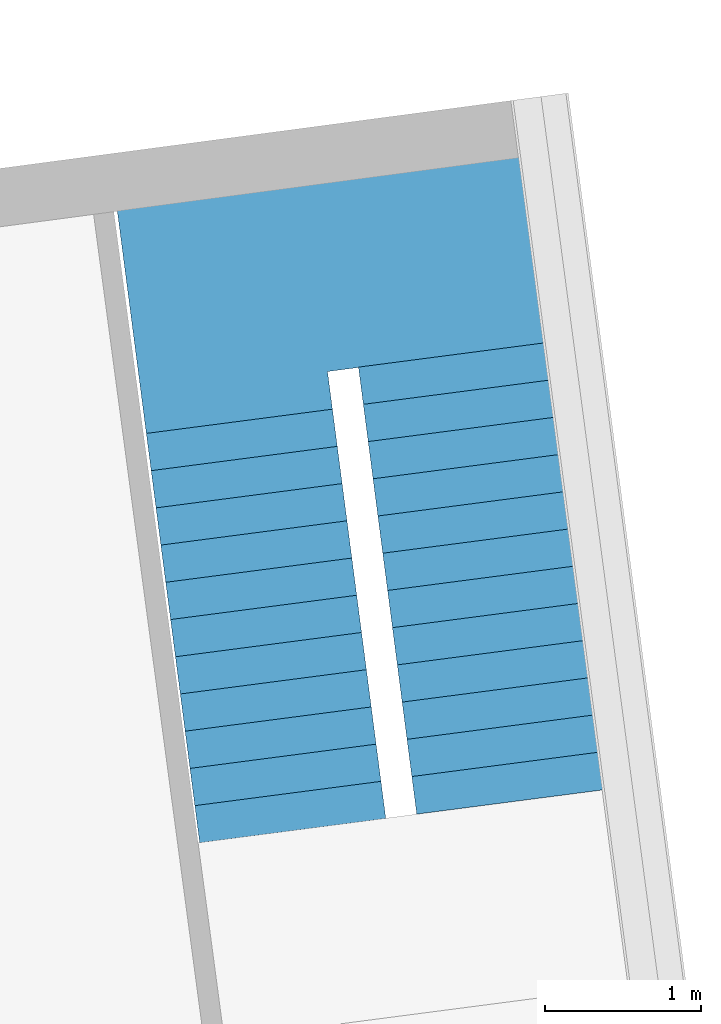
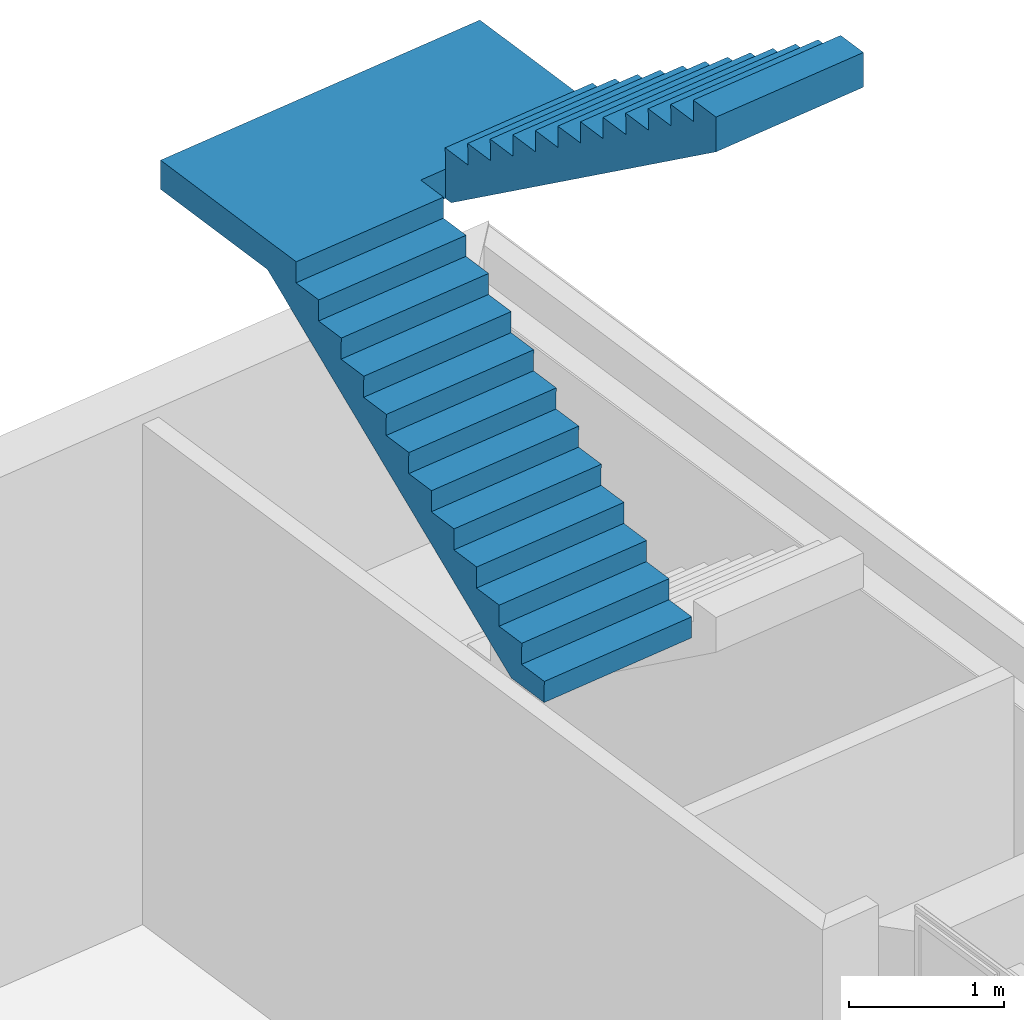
# One storey, part 14 of 17: 1 stair.
"""IFC2X3 building model written with IfcOpenShell, lengths in metres."""

from ifc_helpers import new_model, entity, si_unit, converted_unit, money_unit, direction, frame, origin_with_axes, place, context, subcontext, project, spatial, faceted_brep, material, element, save


model = new_model("IFC2X3")

# Units and contexts
model_context = context("Model", 3, precision=1e-05, world=origin_with_axes(), true_north=direction((0.0, 1.0)))
body_context = subcontext(model_context, "Body", "Model", "MODEL_VIEW")
ifc_project = project(units=[si_unit("LENGTHUNIT", "METRE"), si_unit("AREAUNIT", "SQUARE_METRE"), si_unit("VOLUMEUNIT", "CUBIC_METRE"), converted_unit("PLANEANGLEUNIT", "DEGREE", entity("IfcPlaneAngleMeasure", 0.0174532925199), si_unit("PLANEANGLEUNIT", "RADIAN"), dimensions=[0, 0, 0, 0, 0, 0, 0]), si_unit("SOLIDANGLEUNIT", "STERADIAN"), money_unit("EUR"), converted_unit("TIMEUNIT", "Year", entity("IfcTimeMeasure", 31556926.0), si_unit("TIMEUNIT", "SECOND"), dimensions=[0, 0, 0, 0, 0, 0, 0]), si_unit("MASSUNIT", "GRAM"), si_unit("THERMODYNAMICTEMPERATUREUNIT", "DEGREE_CELSIUS"), si_unit("LUMINOUSINTENSITYUNIT", "LUMEN")], contexts=[model_context])

# Site, building, storey
site_placement = place(None, origin_with_axes())
site = spatial("IfcSite", under=ifc_project, at=site_placement, Name="Undefined", CompositionType="ELEMENT")
building_placement = place(site_placement, origin_with_axes())
building = spatial("IfcBuilding", under=site, at=building_placement, Name="Undefined", CompositionType="ELEMENT")
storey_placement = place(building_placement, frame((0.0, 0.0, 9.425), z_axis=(0.0, 0.0, 1.0), x_axis=(1.0, 0.0, 0.0)))
storey = spatial("IfcBuildingStorey", under=building, at=storey_placement, Name="Mezzannine", CompositionType="ELEMENT", Elevation=9.425)

# Stair
ifc_material = material(Name="Concrete Block")
stair_placement = place(storey_placement, frame((64.973856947, 23.1091843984, 3.95), z_axis=(0.0, 0.0, 1.0), x_axis=(0.129312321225, -0.991603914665, 0.0)))
element("IfcStair", 1, at=stair_placement, inside=storey, material=ifc_material, Name="Stair_02", ObjectType="STAIR", ShapeType="NOTDEFINED", context=body_context, shape_type="Brep", body=[
    faceted_brep([(-0.349165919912, 0.0, 0.0), (-2.94295473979, 0.0, 1.7825), (-2.94295473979, 1.2, 1.7825), (-0.349165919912, 1.2, 0.0), (-0.02, 0.0, 0.0), (-0.02, 0.0, 0.137708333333), (-0.26, 0.0, 0.137708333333), (-0.26, 0.0, 0.305416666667), (-0.5, 0.0, 0.305416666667), (-0.5, 0.0, 0.473125), (-0.74, 0.0, 0.473125), (-0.74, 0.0, 0.640833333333), (-0.98, 0.0, 0.640833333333), (-0.98, 0.0, 0.808541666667), (-1.22, 0.0, 0.808541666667), (-1.22, 0.0, 0.97625), (-1.46, 0.0, 0.97625), (-1.46, 0.0, 1.14395833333), (-1.7, 0.0, 1.14395833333), (-1.7, 0.0, 1.31166666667), (-1.94, 0.0, 1.31166666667), (-1.94, 0.0, 1.479375), (-2.18, 0.0, 1.479375), (-2.18, 0.0, 1.64708333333), (-2.42, 0.0, 1.64708333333), (-2.42, 0.0, 1.81479166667), (-2.66, 0.0, 1.81479166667), (-2.66, 0.0, 1.9825), (-2.9, 0.0, 1.9825), (-4.08, 0.0, 1.9825), (-4.08, 0.0, 1.7825), (-4.08, 1.2, 1.7825), (-4.08, 1.2, 1.9825), (-2.9, 1.2, 1.9825), (-2.66, 1.2, 1.9825), (-2.66, 1.2, 1.81479166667), (-2.42, 1.2, 1.81479166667), (-2.42, 1.2, 1.64708333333), (-2.18, 1.2, 1.64708333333), (-2.18, 1.2, 1.479375), (-1.94, 1.2, 1.479375), (-1.94, 1.2, 1.31166666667), (-1.7, 1.2, 1.31166666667), (-1.7, 1.2, 1.14395833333), (-1.46, 1.2, 1.14395833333), (-1.46, 1.2, 0.97625), (-1.22, 1.2, 0.97625), (-1.22, 1.2, 0.808541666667), (-0.98, 1.2, 0.808541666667), (-0.98, 1.2, 0.640833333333), (-0.74, 1.2, 0.640833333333), (-0.74, 1.2, 0.473125), (-0.5, 1.2, 0.473125), (-0.5, 1.2, 0.305416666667), (-0.26, 1.2, 0.305416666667), (-0.26, 1.2, 0.137708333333), (-0.02, 1.2, 0.137708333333), (-0.02, 1.2, 0.0)], [[[0, 1, 2, 3]], [[0, 4, 5, 6, 7, 8, 9, 10, 11, 12, 13, 14, 15, 16, 17, 18, 19, 20, 21, 22, 23, 24, 25, 26, 27, 28, 29, 30, 1]], [[1, 30, 31, 2]], [[3, 2, 31, 32, 33, 34, 35, 36, 37, 38, 39, 40, 41, 42, 43, 44, 45, 46, 47, 48, 49, 50, 51, 52, 53, 54, 55, 56, 57]], [[4, 0, 3, 57]], [[5, 4, 57, 56]], [[6, 5, 56, 55]], [[7, 6, 55, 54]], [[8, 7, 54, 53]], [[9, 8, 53, 52]], [[10, 9, 52, 51]], [[11, 10, 51, 50]], [[12, 11, 50, 49]], [[13, 12, 49, 48]], [[14, 13, 48, 47]], [[15, 14, 47, 46]], [[16, 15, 46, 45]], [[17, 16, 45, 44]], [[18, 17, 44, 43]], [[19, 18, 43, 42]], [[20, 19, 42, 41]], [[21, 20, 41, 40]], [[22, 21, 40, 39]], [[23, 22, 39, 38]], [[24, 23, 38, 37]], [[25, 24, 37, 36]], [[26, 25, 36, 35]], [[27, 26, 35, 34]], [[28, 27, 34, 33]], [[29, 28, 33, 32]], [[30, 29, 32, 31]]]),
    faceted_brep([(-2.88, 1.2, 1.9825), (-2.88, 1.2, 1.7825), (-2.88, 1.4, 1.7825), (-2.88, 1.4, 1.9825), (-4.08, 1.2, 1.9825), (-4.08, 1.2, 1.7825), (-2.94295473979, 1.2, 1.7825), (-2.94295473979, 1.4, 1.7825), (-4.08, 1.4, 1.7825), (-4.08, 1.4, 1.9825)], [[[0, 1, 2, 3]], [[0, 4, 5, 6, 1]], [[1, 6, 7, 2]], [[3, 2, 7, 8, 9]], [[4, 0, 3, 9]], [[5, 4, 9, 8]], [[6, 5, 8, 7]]]),
    faceted_brep([(-2.88, 1.4, 1.9825), (-2.88, 1.4, 1.7825), (-2.88, 2.6, 1.7825), (-2.88, 2.6, 1.9825), (-4.08, 1.4, 1.9825), (-4.08, 1.4, 1.7825), (-4.08, 2.6, 1.7825), (-4.08, 2.6, 1.9825)], [[[0, 1, 2, 3]], [[0, 4, 5, 1]], [[1, 5, 6, 2]], [[3, 2, 6, 7]], [[4, 0, 3, 7]], [[5, 4, 7, 6]]]),
    faceted_brep([(-2.88, 1.4, 1.7825), (-2.88, 2.6, 1.7825), (-2.81704526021, 2.6, 1.7825), (-2.81704526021, 1.4, 1.7825), (-2.88, 1.4, 1.9825), (-2.88, 2.6, 1.9825), (-2.86, 2.6, 1.9825), (-2.86, 2.6, 2.15020833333), (-2.62, 2.6, 2.15020833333), (-2.62, 2.6, 2.31791666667), (-2.38, 2.6, 2.31791666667), (-2.38, 2.6, 2.485625), (-2.14, 2.6, 2.485625), (-2.14, 2.6, 2.65333333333), (-1.9, 2.6, 2.65333333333), (-1.9, 2.6, 2.82104166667), (-1.66, 2.6, 2.82104166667), (-1.66, 2.6, 2.98875), (-1.42, 2.6, 2.98875), (-1.42, 2.6, 3.15645833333), (-1.18, 2.6, 3.15645833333), (-1.18, 2.6, 3.32416666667), (-0.94, 2.6, 3.32416666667), (-0.94, 2.6, 3.491875), (-0.7, 2.6, 3.491875), (-0.7, 2.6, 3.65958333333), (-0.46, 2.6, 3.65958333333), (-0.46, 2.6, 3.82729166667), (-0.22, 2.6, 3.82729166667), (-0.22, 2.6, 3.995), (0.0, 2.6, 3.995), (0.0, 2.6, 3.75100818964), (0.0, 1.4, 3.75100818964), (0.0, 1.4, 3.995), (-0.22, 1.4, 3.995), (-0.22, 1.4, 3.82729166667), (-0.46, 1.4, 3.82729166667), (-0.46, 1.4, 3.65958333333), (-0.7, 1.4, 3.65958333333), (-0.7, 1.4, 3.491875), (-0.94, 1.4, 3.491875), (-0.94, 1.4, 3.32416666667), (-1.18, 1.4, 3.32416666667), (-1.18, 1.4, 3.15645833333), (-1.42, 1.4, 3.15645833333), (-1.42, 1.4, 2.98875), (-1.66, 1.4, 2.98875), (-1.66, 1.4, 2.82104166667), (-1.9, 1.4, 2.82104166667), (-1.9, 1.4, 2.65333333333), (-2.14, 1.4, 2.65333333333), (-2.14, 1.4, 2.485625), (-2.38, 1.4, 2.485625), (-2.38, 1.4, 2.31791666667), (-2.62, 1.4, 2.31791666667), (-2.62, 1.4, 2.15020833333), (-2.86, 1.4, 2.15020833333), (-2.86, 1.4, 1.9825)], [[[0, 1, 2, 3]], [[4, 5, 1, 0]], [[1, 5, 6, 7, 8, 9, 10, 11, 12, 13, 14, 15, 16, 17, 18, 19, 20, 21, 22, 23, 24, 25, 26, 27, 28, 29, 30, 31, 2]], [[3, 2, 31, 32]], [[0, 3, 32, 33, 34, 35, 36, 37, 38, 39, 40, 41, 42, 43, 44, 45, 46, 47, 48, 49, 50, 51, 52, 53, 54, 55, 56, 57, 4]], [[57, 6, 5, 4]], [[56, 7, 6, 57]], [[55, 8, 7, 56]], [[54, 9, 8, 55]], [[53, 10, 9, 54]], [[52, 11, 10, 53]], [[51, 12, 11, 52]], [[50, 13, 12, 51]], [[49, 14, 13, 50]], [[48, 15, 14, 49]], [[47, 16, 15, 48]], [[46, 17, 16, 47]], [[45, 18, 17, 46]], [[44, 19, 18, 45]], [[43, 20, 19, 44]], [[42, 21, 20, 43]], [[41, 22, 21, 42]], [[40, 23, 22, 41]], [[39, 24, 23, 40]], [[38, 25, 24, 39]], [[37, 26, 25, 38]], [[36, 27, 26, 37]], [[35, 28, 27, 36]], [[34, 29, 28, 35]], [[33, 30, 29, 34]], [[32, 31, 30, 33]]]),
    faceted_brep([(0.0, 0.0, 0.0), (-0.02, 0.0, 0.0), (-0.02, 1.2, 0.0), (0.0, 1.2, 0.0), (0.0, 0.0, 0.137708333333), (-0.02, 0.0, 0.137708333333), (-0.02, 1.2, 0.137708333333), (0.0, 1.2, 0.137708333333)], [[[0, 1, 2, 3]], [[0, 4, 5, 1]], [[1, 5, 6, 2]], [[3, 2, 6, 7]], [[4, 0, 3, 7]], [[5, 4, 7, 6]]]),
    faceted_brep([(-0.24, 0.0, 0.167708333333), (-0.26, 0.0, 0.167708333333), (-0.26, 1.2, 0.167708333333), (-0.24, 1.2, 0.167708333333), (-0.24, 0.0, 0.305416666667), (-0.26, 0.0, 0.305416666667), (-0.26, 1.2, 0.305416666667), (-0.24, 1.2, 0.305416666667)], [[[0, 1, 2, 3]], [[0, 4, 5, 1]], [[1, 5, 6, 2]], [[3, 2, 6, 7]], [[4, 0, 3, 7]], [[5, 4, 7, 6]]]),
    faceted_brep([(-0.48, 0.0, 0.335416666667), (-0.5, 0.0, 0.335416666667), (-0.5, 1.2, 0.335416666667), (-0.48, 1.2, 0.335416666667), (-0.48, 0.0, 0.473125), (-0.5, 0.0, 0.473125), (-0.5, 1.2, 0.473125), (-0.48, 1.2, 0.473125)], [[[0, 1, 2, 3]], [[0, 4, 5, 1]], [[1, 5, 6, 2]], [[3, 2, 6, 7]], [[4, 0, 3, 7]], [[5, 4, 7, 6]]]),
    faceted_brep([(-0.72, 0.0, 0.503125), (-0.74, 0.0, 0.503125), (-0.74, 1.2, 0.503125), (-0.72, 1.2, 0.503125), (-0.72, 0.0, 0.640833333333), (-0.74, 0.0, 0.640833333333), (-0.74, 1.2, 0.640833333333), (-0.72, 1.2, 0.640833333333)], [[[0, 1, 2, 3]], [[0, 4, 5, 1]], [[1, 5, 6, 2]], [[3, 2, 6, 7]], [[4, 0, 3, 7]], [[5, 4, 7, 6]]]),
    faceted_brep([(-0.96, 0.0, 0.670833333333), (-0.98, 0.0, 0.670833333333), (-0.98, 1.2, 0.670833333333), (-0.96, 1.2, 0.670833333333), (-0.96, 0.0, 0.808541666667), (-0.98, 0.0, 0.808541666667), (-0.98, 1.2, 0.808541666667), (-0.96, 1.2, 0.808541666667)], [[[0, 1, 2, 3]], [[0, 4, 5, 1]], [[1, 5, 6, 2]], [[3, 2, 6, 7]], [[4, 0, 3, 7]], [[5, 4, 7, 6]]]),
    faceted_brep([(-1.2, 0.0, 0.838541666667), (-1.22, 0.0, 0.838541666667), (-1.22, 1.2, 0.838541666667), (-1.2, 1.2, 0.838541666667), (-1.2, 0.0, 0.97625), (-1.22, 0.0, 0.97625), (-1.22, 1.2, 0.97625), (-1.2, 1.2, 0.97625)], [[[0, 1, 2, 3]], [[0, 4, 5, 1]], [[1, 5, 6, 2]], [[3, 2, 6, 7]], [[4, 0, 3, 7]], [[5, 4, 7, 6]]]),
    faceted_brep([(-1.44, 0.0, 1.00625), (-1.46, 0.0, 1.00625), (-1.46, 1.2, 1.00625), (-1.44, 1.2, 1.00625), (-1.44, 0.0, 1.14395833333), (-1.46, 0.0, 1.14395833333), (-1.46, 1.2, 1.14395833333), (-1.44, 1.2, 1.14395833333)], [[[0, 1, 2, 3]], [[0, 4, 5, 1]], [[1, 5, 6, 2]], [[3, 2, 6, 7]], [[4, 0, 3, 7]], [[5, 4, 7, 6]]]),
    faceted_brep([(-1.68, 0.0, 1.17395833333), (-1.7, 0.0, 1.17395833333), (-1.7, 1.2, 1.17395833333), (-1.68, 1.2, 1.17395833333), (-1.68, 0.0, 1.31166666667), (-1.7, 0.0, 1.31166666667), (-1.7, 1.2, 1.31166666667), (-1.68, 1.2, 1.31166666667)], [[[0, 1, 2, 3]], [[0, 4, 5, 1]], [[1, 5, 6, 2]], [[3, 2, 6, 7]], [[4, 0, 3, 7]], [[5, 4, 7, 6]]]),
    faceted_brep([(-1.92, 0.0, 1.34166666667), (-1.94, 0.0, 1.34166666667), (-1.94, 1.2, 1.34166666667), (-1.92, 1.2, 1.34166666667), (-1.92, 0.0, 1.479375), (-1.94, 0.0, 1.479375), (-1.94, 1.2, 1.479375), (-1.92, 1.2, 1.479375)], [[[0, 1, 2, 3]], [[0, 4, 5, 1]], [[1, 5, 6, 2]], [[3, 2, 6, 7]], [[4, 0, 3, 7]], [[5, 4, 7, 6]]]),
    faceted_brep([(-2.16, 0.0, 1.509375), (-2.18, 0.0, 1.509375), (-2.18, 1.2, 1.509375), (-2.16, 1.2, 1.509375), (-2.16, 0.0, 1.64708333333), (-2.18, 0.0, 1.64708333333), (-2.18, 1.2, 1.64708333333), (-2.16, 1.2, 1.64708333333)], [[[0, 1, 2, 3]], [[0, 4, 5, 1]], [[1, 5, 6, 2]], [[3, 2, 6, 7]], [[4, 0, 3, 7]], [[5, 4, 7, 6]]]),
    faceted_brep([(-2.4, 0.0, 1.67708333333), (-2.42, 0.0, 1.67708333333), (-2.42, 1.2, 1.67708333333), (-2.4, 1.2, 1.67708333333), (-2.4, 0.0, 1.81479166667), (-2.42, 0.0, 1.81479166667), (-2.42, 1.2, 1.81479166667), (-2.4, 1.2, 1.81479166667)], [[[0, 1, 2, 3]], [[0, 4, 5, 1]], [[1, 5, 6, 2]], [[3, 2, 6, 7]], [[4, 0, 3, 7]], [[5, 4, 7, 6]]]),
    faceted_brep([(-2.64, 0.0, 1.84479166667), (-2.66, 0.0, 1.84479166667), (-2.66, 1.2, 1.84479166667), (-2.64, 1.2, 1.84479166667), (-2.64, 0.0, 1.9825), (-2.66, 0.0, 1.9825), (-2.66, 1.2, 1.9825), (-2.64, 1.2, 1.9825)], [[[0, 1, 2, 3]], [[0, 4, 5, 1]], [[1, 5, 6, 2]], [[3, 2, 6, 7]], [[4, 0, 3, 7]], [[5, 4, 7, 6]]]),
    faceted_brep([(-2.88, 1.4, 2.0125), (-2.88, 2.6, 2.0125), (-2.86, 2.6, 2.0125), (-2.86, 1.4, 2.0125), (-2.88, 1.4, 2.15020833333), (-2.88, 2.6, 2.15020833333), (-2.86, 2.6, 2.15020833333), (-2.86, 1.4, 2.15020833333)], [[[0, 1, 2, 3]], [[4, 5, 1, 0]], [[1, 5, 6, 2]], [[3, 2, 6, 7]], [[0, 3, 7, 4]], [[7, 6, 5, 4]]]),
    faceted_brep([(-2.64, 1.4, 2.18020833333), (-2.64, 2.6, 2.18020833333), (-2.62, 2.6, 2.18020833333), (-2.62, 1.4, 2.18020833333), (-2.64, 1.4, 2.31791666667), (-2.64, 2.6, 2.31791666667), (-2.62, 2.6, 2.31791666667), (-2.62, 1.4, 2.31791666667)], [[[0, 1, 2, 3]], [[4, 5, 1, 0]], [[1, 5, 6, 2]], [[3, 2, 6, 7]], [[0, 3, 7, 4]], [[7, 6, 5, 4]]]),
    faceted_brep([(-2.4, 1.4, 2.34791666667), (-2.4, 2.6, 2.34791666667), (-2.38, 2.6, 2.34791666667), (-2.38, 1.4, 2.34791666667), (-2.4, 1.4, 2.485625), (-2.4, 2.6, 2.485625), (-2.38, 2.6, 2.485625), (-2.38, 1.4, 2.485625)], [[[0, 1, 2, 3]], [[4, 5, 1, 0]], [[1, 5, 6, 2]], [[3, 2, 6, 7]], [[0, 3, 7, 4]], [[7, 6, 5, 4]]]),
    faceted_brep([(-2.16, 1.4, 2.515625), (-2.16, 2.6, 2.515625), (-2.14, 2.6, 2.515625), (-2.14, 1.4, 2.515625), (-2.16, 1.4, 2.65333333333), (-2.16, 2.6, 2.65333333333), (-2.14, 2.6, 2.65333333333), (-2.14, 1.4, 2.65333333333)], [[[0, 1, 2, 3]], [[4, 5, 1, 0]], [[1, 5, 6, 2]], [[3, 2, 6, 7]], [[0, 3, 7, 4]], [[7, 6, 5, 4]]]),
    faceted_brep([(-1.92, 1.4, 2.68333333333), (-1.92, 2.6, 2.68333333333), (-1.9, 2.6, 2.68333333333), (-1.9, 1.4, 2.68333333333), (-1.92, 1.4, 2.82104166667), (-1.92, 2.6, 2.82104166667), (-1.9, 2.6, 2.82104166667), (-1.9, 1.4, 2.82104166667)], [[[0, 1, 2, 3]], [[4, 5, 1, 0]], [[1, 5, 6, 2]], [[3, 2, 6, 7]], [[0, 3, 7, 4]], [[7, 6, 5, 4]]]),
    faceted_brep([(-1.68, 1.4, 2.85104166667), (-1.68, 2.6, 2.85104166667), (-1.66, 2.6, 2.85104166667), (-1.66, 1.4, 2.85104166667), (-1.68, 1.4, 2.98875), (-1.68, 2.6, 2.98875), (-1.66, 2.6, 2.98875), (-1.66, 1.4, 2.98875)], [[[0, 1, 2, 3]], [[4, 5, 1, 0]], [[1, 5, 6, 2]], [[3, 2, 6, 7]], [[0, 3, 7, 4]], [[7, 6, 5, 4]]]),
    faceted_brep([(-1.44, 1.4, 3.01875), (-1.44, 2.6, 3.01875), (-1.42, 2.6, 3.01875), (-1.42, 1.4, 3.01875), (-1.44, 1.4, 3.15645833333), (-1.44, 2.6, 3.15645833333), (-1.42, 2.6, 3.15645833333), (-1.42, 1.4, 3.15645833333)], [[[0, 1, 2, 3]], [[4, 5, 1, 0]], [[1, 5, 6, 2]], [[3, 2, 6, 7]], [[0, 3, 7, 4]], [[7, 6, 5, 4]]]),
    faceted_brep([(-1.2, 1.4, 3.18645833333), (-1.2, 2.6, 3.18645833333), (-1.18, 2.6, 3.18645833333), (-1.18, 1.4, 3.18645833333), (-1.2, 1.4, 3.32416666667), (-1.2, 2.6, 3.32416666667), (-1.18, 2.6, 3.32416666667), (-1.18, 1.4, 3.32416666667)], [[[0, 1, 2, 3]], [[4, 5, 1, 0]], [[1, 5, 6, 2]], [[3, 2, 6, 7]], [[0, 3, 7, 4]], [[7, 6, 5, 4]]]),
    faceted_brep([(-0.96, 1.4, 3.35416666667), (-0.96, 2.6, 3.35416666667), (-0.94, 2.6, 3.35416666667), (-0.94, 1.4, 3.35416666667), (-0.96, 1.4, 3.491875), (-0.96, 2.6, 3.491875), (-0.94, 2.6, 3.491875), (-0.94, 1.4, 3.491875)], [[[0, 1, 2, 3]], [[4, 5, 1, 0]], [[1, 5, 6, 2]], [[3, 2, 6, 7]], [[0, 3, 7, 4]], [[7, 6, 5, 4]]]),
    faceted_brep([(-0.72, 1.4, 3.521875), (-0.72, 2.6, 3.521875), (-0.7, 2.6, 3.521875), (-0.7, 1.4, 3.521875), (-0.72, 1.4, 3.65958333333), (-0.72, 2.6, 3.65958333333), (-0.7, 2.6, 3.65958333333), (-0.7, 1.4, 3.65958333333)], [[[0, 1, 2, 3]], [[4, 5, 1, 0]], [[1, 5, 6, 2]], [[3, 2, 6, 7]], [[0, 3, 7, 4]], [[7, 6, 5, 4]]]),
    faceted_brep([(-0.48, 1.4, 3.68958333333), (-0.48, 2.6, 3.68958333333), (-0.46, 2.6, 3.68958333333), (-0.46, 1.4, 3.68958333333), (-0.48, 1.4, 3.82729166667), (-0.48, 2.6, 3.82729166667), (-0.46, 2.6, 3.82729166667), (-0.46, 1.4, 3.82729166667)], [[[0, 1, 2, 3]], [[4, 5, 1, 0]], [[1, 5, 6, 2]], [[3, 2, 6, 7]], [[0, 3, 7, 4]], [[7, 6, 5, 4]]]),
    faceted_brep([(-0.24, 1.4, 3.85729166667), (-0.24, 2.6, 3.85729166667), (-0.22, 2.6, 3.85729166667), (-0.22, 1.4, 3.85729166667), (-0.24, 1.4, 3.995), (-0.24, 2.6, 3.995), (-0.22, 2.6, 3.995), (-0.22, 1.4, 3.995)], [[[0, 1, 2, 3]], [[4, 5, 1, 0]], [[1, 5, 6, 2]], [[3, 2, 6, 7]], [[0, 3, 7, 4]], [[7, 6, 5, 4]]]),
    faceted_brep([(0.0025, 0.0, 0.137708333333), (-0.26, 0.0, 0.137708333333), (-0.26, 1.2, 0.137708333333), (0.0025, 1.2, 0.137708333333), (0.0025, 0.0, 0.167708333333), (-0.26, 0.0, 0.167708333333), (-0.26, 1.2, 0.167708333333), (0.0025, 1.2, 0.167708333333)], [[[0, 1, 2, 3]], [[0, 4, 5, 1]], [[1, 5, 6, 2]], [[3, 2, 6, 7]], [[4, 0, 3, 7]], [[5, 4, 7, 6]]]),
    faceted_brep([(-0.2375, 0.0, 0.305416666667), (-0.5, 0.0, 0.305416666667), (-0.5, 1.2, 0.305416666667), (-0.2375, 1.2, 0.305416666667), (-0.2375, 0.0, 0.335416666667), (-0.5, 0.0, 0.335416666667), (-0.5, 1.2, 0.335416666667), (-0.2375, 1.2, 0.335416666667)], [[[0, 1, 2, 3]], [[0, 4, 5, 1]], [[1, 5, 6, 2]], [[3, 2, 6, 7]], [[4, 0, 3, 7]], [[5, 4, 7, 6]]]),
    faceted_brep([(-0.4775, 0.0, 0.473125), (-0.74, 0.0, 0.473125), (-0.74, 1.2, 0.473125), (-0.4775, 1.2, 0.473125), (-0.4775, 0.0, 0.503125), (-0.74, 0.0, 0.503125), (-0.74, 1.2, 0.503125), (-0.4775, 1.2, 0.503125)], [[[0, 1, 2, 3]], [[0, 4, 5, 1]], [[1, 5, 6, 2]], [[3, 2, 6, 7]], [[4, 0, 3, 7]], [[5, 4, 7, 6]]]),
    faceted_brep([(-0.7175, 0.0, 0.640833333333), (-0.98, 0.0, 0.640833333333), (-0.98, 1.2, 0.640833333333), (-0.7175, 1.2, 0.640833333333), (-0.7175, 0.0, 0.670833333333), (-0.98, 0.0, 0.670833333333), (-0.98, 1.2, 0.670833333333), (-0.7175, 1.2, 0.670833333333)], [[[0, 1, 2, 3]], [[0, 4, 5, 1]], [[1, 5, 6, 2]], [[3, 2, 6, 7]], [[4, 0, 3, 7]], [[5, 4, 7, 6]]]),
    faceted_brep([(-0.9575, 0.0, 0.808541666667), (-1.22, 0.0, 0.808541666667), (-1.22, 1.2, 0.808541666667), (-0.9575, 1.2, 0.808541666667), (-0.9575, 0.0, 0.838541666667), (-1.22, 0.0, 0.838541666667), (-1.22, 1.2, 0.838541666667), (-0.9575, 1.2, 0.838541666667)], [[[0, 1, 2, 3]], [[0, 4, 5, 1]], [[1, 5, 6, 2]], [[3, 2, 6, 7]], [[4, 0, 3, 7]], [[5, 4, 7, 6]]]),
    faceted_brep([(-1.1975, 0.0, 0.97625), (-1.46, 0.0, 0.97625), (-1.46, 1.2, 0.97625), (-1.1975, 1.2, 0.97625), (-1.1975, 0.0, 1.00625), (-1.46, 0.0, 1.00625), (-1.46, 1.2, 1.00625), (-1.1975, 1.2, 1.00625)], [[[0, 1, 2, 3]], [[0, 4, 5, 1]], [[1, 5, 6, 2]], [[3, 2, 6, 7]], [[4, 0, 3, 7]], [[5, 4, 7, 6]]]),
    faceted_brep([(-1.4375, 0.0, 1.14395833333), (-1.7, 0.0, 1.14395833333), (-1.7, 1.2, 1.14395833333), (-1.4375, 1.2, 1.14395833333), (-1.4375, 0.0, 1.17395833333), (-1.7, 0.0, 1.17395833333), (-1.7, 1.2, 1.17395833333), (-1.4375, 1.2, 1.17395833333)], [[[0, 1, 2, 3]], [[0, 4, 5, 1]], [[1, 5, 6, 2]], [[3, 2, 6, 7]], [[4, 0, 3, 7]], [[5, 4, 7, 6]]]),
    faceted_brep([(-1.6775, 0.0, 1.31166666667), (-1.94, 0.0, 1.31166666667), (-1.94, 1.2, 1.31166666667), (-1.6775, 1.2, 1.31166666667), (-1.6775, 0.0, 1.34166666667), (-1.94, 0.0, 1.34166666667), (-1.94, 1.2, 1.34166666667), (-1.6775, 1.2, 1.34166666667)], [[[0, 1, 2, 3]], [[0, 4, 5, 1]], [[1, 5, 6, 2]], [[3, 2, 6, 7]], [[4, 0, 3, 7]], [[5, 4, 7, 6]]]),
    faceted_brep([(-1.9175, 0.0, 1.479375), (-2.18, 0.0, 1.479375), (-2.18, 1.2, 1.479375), (-1.9175, 1.2, 1.479375), (-1.9175, 0.0, 1.509375), (-2.18, 0.0, 1.509375), (-2.18, 1.2, 1.509375), (-1.9175, 1.2, 1.509375)], [[[0, 1, 2, 3]], [[0, 4, 5, 1]], [[1, 5, 6, 2]], [[3, 2, 6, 7]], [[4, 0, 3, 7]], [[5, 4, 7, 6]]]),
    faceted_brep([(-2.1575, 0.0, 1.64708333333), (-2.42, 0.0, 1.64708333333), (-2.42, 1.2, 1.64708333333), (-2.1575, 1.2, 1.64708333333), (-2.1575, 0.0, 1.67708333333), (-2.42, 0.0, 1.67708333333), (-2.42, 1.2, 1.67708333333), (-2.1575, 1.2, 1.67708333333)], [[[0, 1, 2, 3]], [[0, 4, 5, 1]], [[1, 5, 6, 2]], [[3, 2, 6, 7]], [[4, 0, 3, 7]], [[5, 4, 7, 6]]]),
    faceted_brep([(-2.3975, 0.0, 1.81479166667), (-2.66, 0.0, 1.81479166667), (-2.66, 1.2, 1.81479166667), (-2.3975, 1.2, 1.81479166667), (-2.3975, 0.0, 1.84479166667), (-2.66, 0.0, 1.84479166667), (-2.66, 1.2, 1.84479166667), (-2.3975, 1.2, 1.84479166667)], [[[0, 1, 2, 3]], [[0, 4, 5, 1]], [[1, 5, 6, 2]], [[3, 2, 6, 7]], [[4, 0, 3, 7]], [[5, 4, 7, 6]]]),
    faceted_brep([(-2.6375, 0.0, 1.9825), (-2.88, 0.0, 1.9825), (-2.88, 1.2, 1.9825), (-2.6375, 1.2, 1.9825), (-2.6375, 0.0, 2.0125), (-2.88, 0.0, 2.0125), (-2.88, 1.2, 2.0125), (-2.6375, 1.2, 2.0125)], [[[0, 1, 2, 3]], [[0, 4, 5, 1]], [[1, 5, 6, 2]], [[3, 2, 6, 7]], [[4, 0, 3, 7]], [[5, 4, 7, 6]]]),
    faceted_brep([(-4.08, 0.0, 1.9825), (-4.08, 0.0, 2.0125), (-4.08, 1.4, 2.0125), (-4.08, 1.4, 1.9825), (-2.88, 0.0, 1.9825), (-2.88, 0.0, 2.0125), (-2.88, 1.4, 2.0125), (-2.88, 1.4, 1.9825)], [[[0, 1, 2, 3]], [[0, 4, 5, 1]], [[1, 5, 6, 2]], [[3, 2, 6, 7]], [[4, 0, 3, 7]], [[5, 4, 7, 6]]]),
    faceted_brep([(-4.08, 1.4, 1.9825), (-4.08, 1.4, 2.0125), (-4.08, 2.6, 2.0125), (-4.08, 2.6, 1.9825), (-2.86, 1.4, 1.9825), (-2.86, 1.4, 2.0125), (-2.86, 2.6, 2.0125), (-2.86, 2.6, 1.9825)], [[[0, 1, 2, 3]], [[0, 4, 5, 1]], [[1, 5, 6, 2]], [[3, 2, 6, 7]], [[4, 0, 3, 7]], [[5, 4, 7, 6]]]),
    faceted_brep([(-2.8825, 1.4, 2.15020833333), (-2.8825, 2.6, 2.15020833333), (-2.62, 2.6, 2.15020833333), (-2.62, 1.4, 2.15020833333), (-2.8825, 1.4, 2.18020833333), (-2.8825, 2.6, 2.18020833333), (-2.62, 2.6, 2.18020833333), (-2.62, 1.4, 2.18020833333)], [[[0, 1, 2, 3]], [[4, 5, 1, 0]], [[1, 5, 6, 2]], [[3, 2, 6, 7]], [[0, 3, 7, 4]], [[7, 6, 5, 4]]]),
    faceted_brep([(-2.6425, 1.4, 2.31791666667), (-2.6425, 2.6, 2.31791666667), (-2.38, 2.6, 2.31791666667), (-2.38, 1.4, 2.31791666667), (-2.6425, 1.4, 2.34791666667), (-2.6425, 2.6, 2.34791666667), (-2.38, 2.6, 2.34791666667), (-2.38, 1.4, 2.34791666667)], [[[0, 1, 2, 3]], [[4, 5, 1, 0]], [[1, 5, 6, 2]], [[3, 2, 6, 7]], [[0, 3, 7, 4]], [[7, 6, 5, 4]]]),
    faceted_brep([(-2.4025, 1.4, 2.485625), (-2.4025, 2.6, 2.485625), (-2.14, 2.6, 2.485625), (-2.14, 1.4, 2.485625), (-2.4025, 1.4, 2.515625), (-2.4025, 2.6, 2.515625), (-2.14, 2.6, 2.515625), (-2.14, 1.4, 2.515625)], [[[0, 1, 2, 3]], [[4, 5, 1, 0]], [[1, 5, 6, 2]], [[3, 2, 6, 7]], [[0, 3, 7, 4]], [[7, 6, 5, 4]]]),
    faceted_brep([(-2.1625, 1.4, 2.65333333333), (-2.1625, 2.6, 2.65333333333), (-1.9, 2.6, 2.65333333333), (-1.9, 1.4, 2.65333333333), (-2.1625, 1.4, 2.68333333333), (-2.1625, 2.6, 2.68333333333), (-1.9, 2.6, 2.68333333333), (-1.9, 1.4, 2.68333333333)], [[[0, 1, 2, 3]], [[4, 5, 1, 0]], [[1, 5, 6, 2]], [[3, 2, 6, 7]], [[0, 3, 7, 4]], [[7, 6, 5, 4]]]),
    faceted_brep([(-1.9225, 1.4, 2.82104166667), (-1.9225, 2.6, 2.82104166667), (-1.66, 2.6, 2.82104166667), (-1.66, 1.4, 2.82104166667), (-1.9225, 1.4, 2.85104166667), (-1.9225, 2.6, 2.85104166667), (-1.66, 2.6, 2.85104166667), (-1.66, 1.4, 2.85104166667)], [[[0, 1, 2, 3]], [[4, 5, 1, 0]], [[1, 5, 6, 2]], [[3, 2, 6, 7]], [[0, 3, 7, 4]], [[7, 6, 5, 4]]]),
    faceted_brep([(-1.6825, 1.4, 2.98875), (-1.6825, 2.6, 2.98875), (-1.42, 2.6, 2.98875), (-1.42, 1.4, 2.98875), (-1.6825, 1.4, 3.01875), (-1.6825, 2.6, 3.01875), (-1.42, 2.6, 3.01875), (-1.42, 1.4, 3.01875)], [[[0, 1, 2, 3]], [[4, 5, 1, 0]], [[1, 5, 6, 2]], [[3, 2, 6, 7]], [[0, 3, 7, 4]], [[7, 6, 5, 4]]]),
    faceted_brep([(-1.4425, 1.4, 3.15645833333), (-1.4425, 2.6, 3.15645833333), (-1.18, 2.6, 3.15645833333), (-1.18, 1.4, 3.15645833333), (-1.4425, 1.4, 3.18645833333), (-1.4425, 2.6, 3.18645833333), (-1.18, 2.6, 3.18645833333), (-1.18, 1.4, 3.18645833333)], [[[0, 1, 2, 3]], [[4, 5, 1, 0]], [[1, 5, 6, 2]], [[3, 2, 6, 7]], [[0, 3, 7, 4]], [[7, 6, 5, 4]]]),
    faceted_brep([(-1.2025, 1.4, 3.32416666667), (-1.2025, 2.6, 3.32416666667), (-0.94, 2.6, 3.32416666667), (-0.94, 1.4, 3.32416666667), (-1.2025, 1.4, 3.35416666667), (-1.2025, 2.6, 3.35416666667), (-0.94, 2.6, 3.35416666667), (-0.94, 1.4, 3.35416666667)], [[[0, 1, 2, 3]], [[4, 5, 1, 0]], [[1, 5, 6, 2]], [[3, 2, 6, 7]], [[0, 3, 7, 4]], [[7, 6, 5, 4]]]),
    faceted_brep([(-0.9625, 1.4, 3.491875), (-0.9625, 2.6, 3.491875), (-0.7, 2.6, 3.491875), (-0.7, 1.4, 3.491875), (-0.9625, 1.4, 3.521875), (-0.9625, 2.6, 3.521875), (-0.7, 2.6, 3.521875), (-0.7, 1.4, 3.521875)], [[[0, 1, 2, 3]], [[4, 5, 1, 0]], [[1, 5, 6, 2]], [[3, 2, 6, 7]], [[0, 3, 7, 4]], [[7, 6, 5, 4]]]),
    faceted_brep([(-0.7225, 1.4, 3.65958333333), (-0.7225, 2.6, 3.65958333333), (-0.46, 2.6, 3.65958333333), (-0.46, 1.4, 3.65958333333), (-0.7225, 1.4, 3.68958333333), (-0.7225, 2.6, 3.68958333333), (-0.46, 2.6, 3.68958333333), (-0.46, 1.4, 3.68958333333)], [[[0, 1, 2, 3]], [[4, 5, 1, 0]], [[1, 5, 6, 2]], [[3, 2, 6, 7]], [[0, 3, 7, 4]], [[7, 6, 5, 4]]]),
    faceted_brep([(-0.4825, 1.4, 3.82729166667), (-0.4825, 2.6, 3.82729166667), (-0.22, 2.6, 3.82729166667), (-0.22, 1.4, 3.82729166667), (-0.4825, 1.4, 3.85729166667), (-0.4825, 2.6, 3.85729166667), (-0.22, 2.6, 3.85729166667), (-0.22, 1.4, 3.85729166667)], [[[0, 1, 2, 3]], [[4, 5, 1, 0]], [[1, 5, 6, 2]], [[3, 2, 6, 7]], [[0, 3, 7, 4]], [[7, 6, 5, 4]]]),
    faceted_brep([(-0.2425, 1.4, 3.995), (-0.2425, 2.6, 3.995), (0.0, 2.6, 3.995), (0.0, 1.4, 3.995), (-0.2425, 1.4, 4.025), (-0.2425, 2.6, 4.025), (0.0, 2.6, 4.025), (0.0, 1.4, 4.025)], [[[0, 1, 2, 3]], [[4, 5, 1, 0]], [[1, 5, 6, 2]], [[3, 2, 6, 7]], [[0, 3, 7, 4]], [[7, 6, 5, 4]]]),
])

save(model, "model.ifc")
